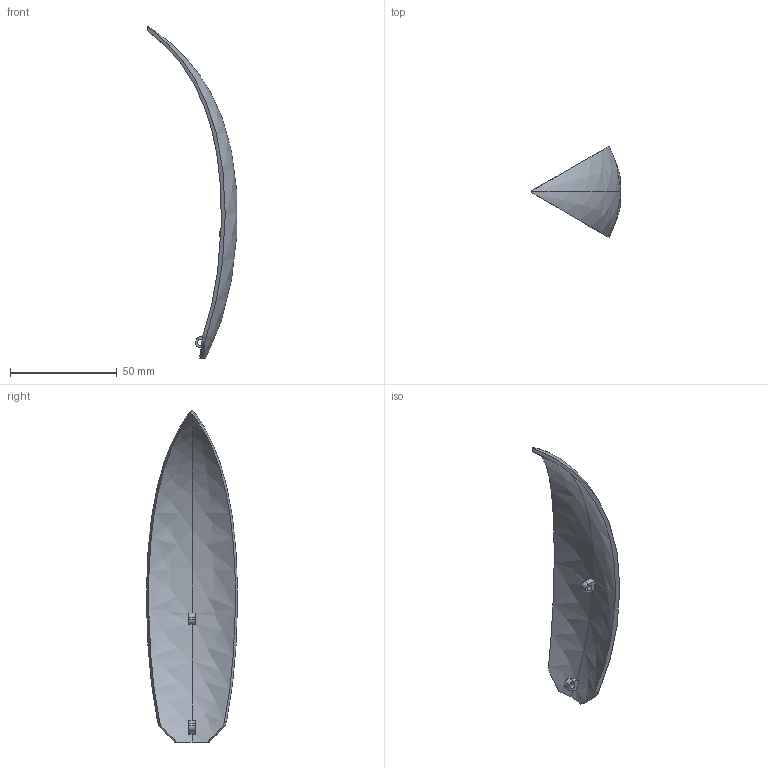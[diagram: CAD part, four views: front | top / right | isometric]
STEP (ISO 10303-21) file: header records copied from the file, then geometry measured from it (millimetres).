
FILE_DESCRIPTION(/* description */ (''),/* implementation_level */ '2;1');
FILE_NAME(/* name */ 'Petal.step',/* time_stamp */ '2026-07-17T11:57:52+01:00',/* author */ (''),/* organization */ (''),/* preprocessor_version */ 'ST-DEVELOPER v20.1',/* originating_system */ 'Autodesk Translation Framework v15.8.0.0',/* authorisation */ '');
FILE_SCHEMA (('AUTOMOTIVE_DESIGN { 1 0 10303 214 3 1 1 }'));
Length unit declared in the file: millimetre
Products named in the file (1): Petal
Bounding box: 42.01 x 42.84 x 155.79 mm (x, y, z)
Volume: 11056 mm3; surface area: 12291.5 mm2
Topology: 1 solids, 1 shells, 28 faces, 78 edges, 52 vertices
Faces by surface type: plane 13, bspline 8, cylinder 7
Full cylindrical faces by diameter (mm): 3 x2
Entity records: 1728 total; most frequent: CARTESIAN_POINT 1059, ORIENTED_EDGE 156, DIRECTION 90, EDGE_CURVE 78, VERTEX_POINT 52, B_SPLINE_CURVE_WITH_KNOTS 42, AXIS2_PLACEMENT_3D 33, EDGE_LOOP 32
